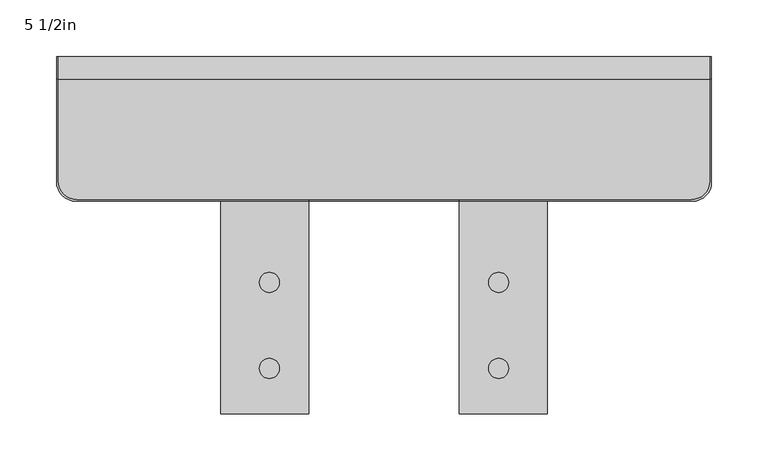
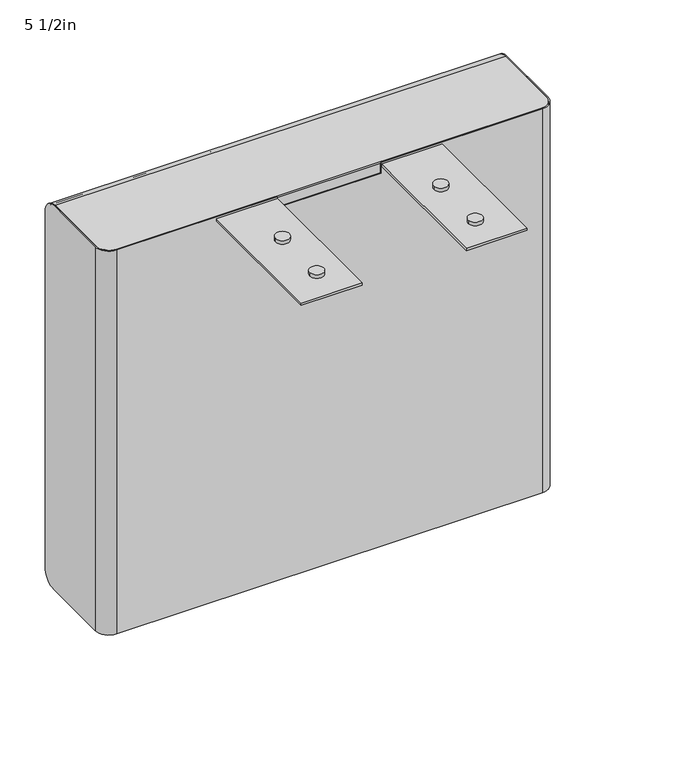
"""IFC4 building model written with IfcOpenShell, lengths in millimetres: furniture geometry, Steelcase - Media Scape - CODEC Case : 5 1/2in."""

import ifcopenshell
import ifcopenshell.guid

model = None  # the IFC model being written
_history = None  # IfcOwnerHistory: only IFC2X3 demands one
_inside = {}  # id of a spatial element -> (the spatial element, [elements in it])
_under = {}  # id of a project, library or spatial element -> (it, [spatial elements below it])
_declared = {}  # id of a project -> (the project, [libraries it declares])
_typed = {}  # id of a type object -> (the type object, [elements of that type])
_made_of = {}  # id of a material, layer set ... -> (it, [elements and type objects made of it])


def new_model(schema):
    """Start an empty IFC model of exactly this schema.

    Asked for "IFC4X3", IfcOpenShell would pick the latest addendum, in which some entities
    have other attributes; the version numbers below select the first issue.
    IFC2X3 requires an IfcOwnerHistory on every rooted entity: one is made here for all.
    """
    global model, _history
    if schema == "IFC4X3":
        model = ifcopenshell.file(schema_version=(4, 3, 0, 0))
    else:
        model = ifcopenshell.file(schema=schema)
    _inside.clear()
    _under.clear()
    _declared.clear()
    _typed.clear()
    _made_of.clear()
    _history = None
    if model.schema == "IFC2X3":
        org = make("IfcOrganization", Name="unknown")
        user = make(
            "IfcPersonAndOrganization",
            ThePerson=make("IfcPerson", FamilyName="unknown"),
            TheOrganization=org,
        )
        app = make(
            "IfcApplication",
            ApplicationDeveloper=org,
            Version="unknown",
            ApplicationFullName="unknown",
            ApplicationIdentifier="unknown",
        )
        _history = make(
            "IfcOwnerHistory",
            OwningUser=user,
            OwningApplication=app,
            ChangeAction="ADDED",
            CreationDate=0,
        )
    return model


def make(cls, **values):
    """One entity of the class cls with the attributes given. An attribute that is None is left unset."""
    return model.create_entity(
        cls, **{name: value for name, value in values.items() if value is not None}
    )


def rooted(cls, **values):
    """An entity with a GlobalId (a new one), such as an element, a storey or a relation."""
    return make(cls, GlobalId=ifcopenshell.guid.new(), OwnerHistory=_history, **values)


def si_unit(unit_type, name, prefix=None):
    """IfcSIUnit, for example si_unit("LENGTHUNIT", "METRE", prefix="MILLI")."""
    return make("IfcSIUnit", UnitType=unit_type, Prefix=prefix, Name=name)


def assignment(units):
    """IfcUnitAssignment: the units of a project."""
    return None if units is None else make("IfcUnitAssignment", Units=units)


def point(xyz):
    """IfcCartesianPoint."""
    return None if xyz is None else make("IfcCartesianPoint", Coordinates=xyz)


def direction(xyz):
    """IfcDirection."""
    return None if xyz is None else make("IfcDirection", DirectionRatios=xyz)


def frame(location, z_axis=None, x_axis=None):
    """IfcAxis2Placement3D, a coordinate frame: its origin and axes. An axis left out is left unset."""
    return make(
        "IfcAxis2Placement3D",
        Location=point(location),
        Axis=direction(z_axis),
        RefDirection=direction(x_axis),
    )


def frame_2d(location, x_axis=None):
    """IfcAxis2Placement2D, a coordinate frame in the plane: its origin and x axis."""
    return make(
        "IfcAxis2Placement2D", Location=point(location), RefDirection=direction(x_axis)
    )


def origin():
    """The frame at (0, 0, 0) with its axes left unset."""
    return frame((0.0, 0.0, 0.0))


def place(relative_to, where):
    """IfcLocalPlacement: puts the frame where relative to a parent placement (None: the world)."""
    return make(
        "IfcLocalPlacement", PlacementRelTo=relative_to, RelativePlacement=where
    )


def context(
    kind, dimensions, precision=None, world=None, true_north=None, identifier=None
):
    """IfcGeometricRepresentationContext, for example the 3D "Model" context."""
    return make(
        "IfcGeometricRepresentationContext",
        ContextIdentifier=identifier,
        ContextType=kind,
        CoordinateSpaceDimension=dimensions,
        Precision=precision,
        WorldCoordinateSystem=world,
        TrueNorth=true_north,
    )


def project(units=None, contexts=None):
    """IfcProject with its units and contexts."""
    return rooted(
        "IfcProject",
        Name="project",
        RepresentationContexts=contexts,
        UnitsInContext=assignment(units),
    )


def spatial(cls, under=None, at=None, **own):
    """A site, building, storey or space (cls), placed at a placement, below another one or the project."""
    s = rooted(cls, ObjectPlacement=at, **own)
    if under is not None:
        _under.setdefault(under.id(), (under, []))[1].append(s)
    return s


def polyline(points):
    """IfcPolyline through the points."""
    return make("IfcPolyline", Points=[point(p) for p in points])


def circle_curve(where, radius):
    """IfcCircle in the frame where."""
    return make("IfcCircle", Position=where, Radius=radius)


def trimmed(basis, trim1, trim2, sense, master):
    """IfcTrimmedCurve: the piece of a basis curve between two trims."""
    return make(
        "IfcTrimmedCurve",
        BasisCurve=basis,
        Trim1=trim1,
        Trim2=trim2,
        SenseAgreement=sense,
        MasterRepresentation=master,
    )


def segment(curve, same_sense, transition):
    """IfcCompositeCurveSegment."""
    return make(
        "IfcCompositeCurveSegment",
        Transition=transition,
        SameSense=same_sense,
        ParentCurve=curve,
    )


def composite_curve(segments, self_intersect=None):
    """IfcCompositeCurve: segments joined end to end."""
    return make("IfcCompositeCurve", Segments=segments, SelfIntersect=self_intersect)


def outline(outer, holes=None, kind="AREA"):
    """IfcArbitraryClosedProfileDef: a profile drawn as a closed curve; with holes, ...WithVoids."""
    if holes is None:
        return make("IfcArbitraryClosedProfileDef", ProfileType=kind, OuterCurve=outer)
    return make(
        "IfcArbitraryProfileDefWithVoids",
        ProfileType=kind,
        OuterCurve=outer,
        InnerCurves=holes,
    )


def extrude(swept, where, along, depth):
    """IfcExtrudedAreaSolid: the profile swept, set in the frame where, extruded along a direction by depth."""
    return make(
        "IfcExtrudedAreaSolid",
        SweptArea=swept,
        Position=where,
        ExtrudedDirection=direction(along),
        Depth=depth,
    )


def shape(context_of_items, identifier, shape_type, items):
    """IfcShapeRepresentation: the items that make up one representation, for example the "Body"."""
    return make(
        "IfcShapeRepresentation",
        ContextOfItems=context_of_items,
        RepresentationIdentifier=identifier,
        RepresentationType=shape_type,
        Items=items,
    )


def source(mapping_origin, context_of_items, identifier, shape_type, items):
    """IfcRepresentationMap: a shape defined once, which mapped items show again and again."""
    return make(
        "IfcRepresentationMap",
        MappingOrigin=mapping_origin,
        MappedRepresentation=shape(context_of_items, identifier, shape_type, items),
    )


def transform(
    local_origin,
    x_axis=None,
    y_axis=None,
    z_axis=None,
    scale=None,
    scale2=None,
    scale3=None,
    uniform=True,
):
    """IfcCartesianTransformationOperator3D, or its non-uniform kind. x_axis, y_axis, z_axis: its Axis1, 2, 3."""
    if uniform:
        return make(
            "IfcCartesianTransformationOperator3D",
            Axis1=direction(x_axis),
            Axis2=direction(y_axis),
            LocalOrigin=point(local_origin),
            Scale=scale,
            Axis3=direction(z_axis),
        )
    return make(
        "IfcCartesianTransformationOperator3DnonUniform",
        Axis1=direction(x_axis),
        Axis2=direction(y_axis),
        LocalOrigin=point(local_origin),
        Scale=scale,
        Axis3=direction(z_axis),
        Scale2=scale2,
        Scale3=scale3,
    )


def mapped(mapping_source, mapping_target):
    """IfcMappedItem: shows the shape of a source again, moved by a transform."""
    return make(
        "IfcMappedItem", MappingSource=mapping_source, MappingTarget=mapping_target
    )


def made_of(thing, what):
    """Note that an element or type object is made of a material, layer set ...; save() writes the relation."""
    if what is not None:
        _made_of.setdefault(what.id(), (what, []))[1].append(thing)
    return thing


def element(
    cls,
    number,
    at=None,
    inside=None,
    cuts=None,
    type_object=None,
    material=None,
    context=None,
    identifier="Body",
    shape_type=None,
    held_by="IfcProductDefinitionShape",
    body=None,
    shapes=None,
    **own,
):
    """One element of the class cls, such as IfcWall. Its Tag is "e" and its number.

    at: its placement. inside: the storey or other place that contains it. cuts: it is an
    opening in that element (IfcRelVoidsElement). A single representation is given by context,
    identifier, shape_type and body (its items); several are given by shapes. held_by: the class
    of the entity that holds the representations. save() writes the other relations.
    """
    e = rooted(cls, Tag="e%d" % number, ObjectPlacement=at, **own)
    if body is not None:
        shapes = [shape(context, identifier, shape_type, body)]
    if shapes is not None:
        e.Representation = make(held_by, Representations=shapes)
    if inside is not None:
        _inside.setdefault(inside.id(), (inside, []))[1].append(e)
    if cuts is not None:
        rooted(
            "IfcRelVoidsElement", RelatingBuildingElement=cuts, RelatedOpeningElement=e
        )
    if type_object is not None:
        _typed.setdefault(type_object.id(), (type_object, []))[1].append(e)
    return made_of(e, material)


def aggregate(whole, parts):
    """IfcRelAggregates: a whole, such as a stair, and the parts it consists of."""
    return rooted("IfcRelAggregates", RelatingObject=whole, RelatedObjects=parts)


def save(model, path):
    """Write the relations noted so far, then the file.

    IfcRelAggregates (storeys below a building ...), IfcRelContainedInSpatialStructure (elements
    in a storey), IfcRelDefinesByType, IfcRelAssociatesMaterial and IfcRelDeclares: one each for
    every whole, place, type object, material and project.
    """
    for whole, parts in _under.values():
        aggregate(whole, parts)
    for where, things in _inside.values():
        rooted(
            "IfcRelContainedInSpatialStructure",
            RelatedElements=things,
            RelatingStructure=where,
        )
    for kind, things in _typed.values():
        rooted("IfcRelDefinesByType", RelatedObjects=things, RelatingType=kind)
    for what, things in _made_of.values():
        rooted("IfcRelAssociatesMaterial", RelatedObjects=things, RelatingMaterial=what)
    for by, libraries in _declared.values():
        rooted("IfcRelDeclares", RelatingContext=by, RelatedDefinitions=libraries)
    model.write(path)


def plane_surface(at):
    """IfcPlane: the flat surface through the origin of the frame at, square to its z axis."""
    return make("IfcPlane", Position=at)


def cylinder_surface(at, radius):
    """IfcCylindricalSurface: all points at the distance radius from the z axis of the frame at."""
    return make("IfcCylindricalSurface", Position=at, Radius=radius)


def revolved_surface(curve, axis_point, axis_direction):
    """IfcSurfaceOfRevolution: the curve turned about the line through axis_point along axis_direction."""
    return make(
        "IfcSurfaceOfRevolution",
        SweptCurve=make("IfcArbitraryOpenProfileDef", ProfileType="CURVE", Curve=curve),
        AxisPosition=make("IfcAxis1Placement", Location=point(axis_point), Axis=direction(axis_direction)),
    )


def advanced_brep(points, edges, surfaces, faces):
    """IfcAdvancedBrep: a solid bounded by faces that lie on surfaces and meet in shared edges.

    An edge is (start, end): straight between two places in points (the first is 0);
    or (start, end, curve); or (start, end, curve, False) where it runs against its curve.
    A face is (place in surfaces, loops), or (place, loops, False) where it looks against
    its surface's normal. A loop lists edges by number (the first is 1), with a minus sign
    where the edge is run from its end to its start. The first loop is the outer one.
    """
    corners = [point(p) for p in points]
    vertices = [make("IfcVertexPoint", VertexGeometry=c) for c in corners]
    made = []
    for start, end, *more in edges:
        made.append(
            make(
                "IfcEdgeCurve",
                EdgeStart=vertices[start],
                EdgeEnd=vertices[end],
                EdgeGeometry=more[0] if more else make("IfcPolyline", Points=[corners[start], corners[end]]),
                SameSense=more[1] if len(more) > 1 else True,
            )
        )
    hull = []
    for where, loops, *sense in faces:
        bounds = []
        for j, loop in enumerate(loops):
            ring = [make("IfcOrientedEdge", EdgeElement=made[abs(k) - 1], Orientation=k > 0) for k in loop]
            bounds.append(
                make(
                    "IfcFaceOuterBound" if j == 0 else "IfcFaceBound",
                    Bound=make("IfcEdgeLoop", EdgeList=ring),
                    Orientation=True,
                )
            )
        hull.append(make("IfcAdvancedFace", Bounds=bounds, FaceSurface=surfaces[where], SameSense=sense[0] if sense else True))
    return make("IfcAdvancedBrep", Outer=make("IfcClosedShell", CfsFaces=hull))


def furniture_5_1_2in_ac73947f(model_context):
    return source(origin(), model_context, "Body", "SolidModel", [
        advanced_brep(
        [(287.9725, 203.3768772, 149.4028), (287.9725, 222.4268772, 168.4528), (287.9725, 222.4268772, 648.4617981), (287.9725, 202.5638753, 668.3248), (287.9725, 112.1078418, 668.3248), (287.9725, 112.1078418, 666.0388), (287.9725, 203.2001796, 666.0388), (287.9725, 220.1408772, 649.0981023), (287.9725, 220.1408772, 168.3752942), (287.9725, 203.454383, 151.6888), (287.9725, 112.1078418, 151.6888), (287.9725, 112.1078418, 149.4028), (-287.9725, 203.454383, 151.6888), (-287.9725, 220.1408772, 168.3752942), (-287.9725, 220.1408772, 649.0981023), (-287.9725, 203.2001796, 666.0388), (-287.9725, 112.2258952, 666.0388), (-287.9725, 112.2258952, 668.3248), (-287.9725, 202.5638753, 668.3248), (-287.9725, 222.4268772, 648.4617981), (-287.9725, 222.4268772, 168.4528), (-287.9725, 203.3768772, 149.4028), (-287.9725, 112.2258952, 149.4028), (-287.9725, 112.2258952, 151.6888), (-271.605282, 95.8586771, 151.6888), (271.7233353, 95.8586771, 151.6888), (-271.605282, 95.8586771, 149.4028), (271.7233353, 95.8586771, 149.4028), (-271.605282, 95.8586771, 668.3248), (271.7233353, 95.8586771, 668.3248), (-271.605282, 95.8586771, 666.0388), (271.7233353, 95.8586771, 666.0388)],
        [
            (0, 1, circle_curve(frame((287.9725, 203.3768772, 168.4528), z_axis=(1.0, 0.0, 0.0), x_axis=(0.0, -1.0, 0.0)), 19.05)),
            (1, 2),
            (2, 3, circle_curve(frame((287.9725, 202.5638753, 648.4617981), z_axis=(1.0, 0.0, 0.0), x_axis=(0.0, -1.0, 0.0)), 19.8630019)),
            (3, 4),
            (4, 5),
            (5, 6),
            (6, 7, circle_curve(frame((287.9725, 203.2001796, 649.0981023), z_axis=(-1.0, 0.0, 0.0), x_axis=(0.0, -1.0, 0.0)), 16.9406977)),
            (7, 8),
            (8, 9, circle_curve(frame((287.9725, 203.454383, 168.3752942), z_axis=(-1.0, 0.0, 0.0), x_axis=(0.0, -1.0, 0.0)), 16.6864942)),
            (9, 10),
            (10, 11),
            (11, 0),
            (12, 13, circle_curve(frame((-287.9725, 203.454383, 168.3752942), z_axis=(1.0, 0.0, 0.0), x_axis=(0.0, -1.0, 0.0)), 16.6864942)),
            (13, 14),
            (14, 15, circle_curve(frame((-287.9725, 203.2001796, 649.0981023), z_axis=(1.0, 0.0, 0.0), x_axis=(0.0, -1.0, 0.0)), 16.9406977)),
            (15, 16),
            (16, 17),
            (17, 18),
            (18, 19, circle_curve(frame((-287.9725, 202.5638753, 648.4617981), z_axis=(-1.0, 0.0, 0.0), x_axis=(0.0, -1.0, 0.0)), 19.8630019)),
            (19, 20),
            (20, 21, circle_curve(frame((-287.9725, 203.3768772, 168.4528), z_axis=(-1.0, 0.0, 0.0), x_axis=(0.0, -1.0, 0.0)), 19.05)),
            (21, 22),
            (22, 23),
            (23, 12),
            (9, 12),
            (23, 24, circle_curve(frame((-271.605282, 112.2258952, 151.6888), z_axis=(0.0, 0.0, 1.0), x_axis=(1.0, 0.0, 0.0)), 16.367218)),
            (24, 25),
            (25, 10, circle_curve(frame((271.7233353, 112.1078418, 151.6888), z_axis=(0.0, 0.0, 1.0), x_axis=(1.0, 0.0, 0.0)), 16.2491647)),
            (24, 26),
            (26, 27),
            (27, 25),
            (21, 0),
            (11, 27, circle_curve(frame((271.7233353, 112.1078418, 149.4028), z_axis=(0.0, 0.0, -1.0), x_axis=(1.0, 0.0, 0.0)), 16.2491647)),
            (26, 22, circle_curve(frame((-271.605282, 112.2258952, 149.4028), z_axis=(0.0, 0.0, -1.0), x_axis=(1.0, 0.0, 0.0)), 16.367218)),
            (20, 1),
            (19, 2),
            (18, 3),
            (17, 28, circle_curve(frame((-271.605282, 112.2258952, 668.3248), z_axis=(0.0, 0.0, 1.0), x_axis=(1.0, 0.0, 0.0)), 16.367218)),
            (28, 29),
            (29, 4, circle_curve(frame((271.7233353, 112.1078418, 668.3248), z_axis=(0.0, 0.0, 1.0), x_axis=(1.0, 0.0, 0.0)), 16.2491647)),
            (28, 30),
            (30, 31),
            (31, 29),
            (15, 6),
            (5, 31, circle_curve(frame((271.7233353, 112.1078418, 666.0388), z_axis=(0.0, 0.0, -1.0), x_axis=(1.0, 0.0, 0.0)), 16.2491647)),
            (30, 16, circle_curve(frame((-271.605282, 112.2258952, 666.0388), z_axis=(0.0, 0.0, -1.0), x_axis=(1.0, 0.0, 0.0)), 16.367218)),
            (14, 7),
            (13, 8),
        ],
        [
            plane_surface(frame((287.9725, 146.6586771, 151.6888), z_axis=(1.0, 0.0, 0.0), x_axis=(0.0, -1.0, 0.0))),
            plane_surface(frame((-287.9725, 146.6586771, 151.6888), z_axis=(-1.0, 0.0, 0.0), x_axis=(0.0, 1.0, 0.0))),
            plane_surface(frame((287.9725, 203.454383, 151.6888), z_axis=(0.0, 0.0, 1.0), x_axis=(-1.0, 0.0, 0.0))),
            plane_surface(frame((287.9725, 95.8586771, 151.6888), z_axis=(0.0, -1.0, 0.0), x_axis=(-1.0, 0.0, 0.0))),
            plane_surface(frame((287.9725, 95.8586771, 149.4028), z_axis=(0.0, 0.0, -1.0), x_axis=(-1.0, 0.0, 0.0))),
            cylinder_surface(frame((-287.9725, 203.3768772, 168.4528), z_axis=(1.0, 0.0, 0.0), x_axis=(0.0, -1.0, 0.0)), 19.05),
            plane_surface(frame((287.9725, 222.4268772, 168.4528), z_axis=(0.0, 1.0, 0.0), x_axis=(-1.0, 0.0, 0.0))),
            cylinder_surface(frame((-287.9725, 202.5638753, 648.4617981), z_axis=(1.0, 0.0, 0.0), x_axis=(0.0, -1.0, 0.0)), 19.8630019),
            plane_surface(frame((287.9725, 202.5638753, 668.3248), z_axis=(0.0, 0.0, 1.0), x_axis=(-1.0, 0.0, 0.0))),
            plane_surface(frame((287.9725, 95.8586771, 668.3248), z_axis=(0.0, -1.0, 0.0), x_axis=(-1.0, 0.0, 0.0))),
            plane_surface(frame((287.9725, 95.8586771, 666.0388), z_axis=(0.0, 0.0, -1.0), x_axis=(-1.0, 0.0, 0.0))),
            revolved_surface(polyline([(-287.9725, 186.25948190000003, 649.0981023), (287.9725, 186.25948190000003, 649.0981023)]), (-287.9725, 203.2001796, 649.0981023), (-1.0, 0.0, 0.0)),
            plane_surface(frame((287.9725, 220.1408772, 649.0981023), z_axis=(0.0, -1.0, 0.0), x_axis=(-1.0, 0.0, 0.0))),
            revolved_surface(polyline([(-287.9725, 186.7678888, 168.3752942), (287.9725, 186.7678888, 168.3752942)]), (-287.9725, 203.454383, 168.3752942), (-1.0, 0.0, 0.0)),
            cylinder_surface(frame((271.7233353, 112.1078418, 126.5654858), z_axis=(0.0, 0.0, -1.0), x_axis=(1.0, 0.0, 0.0)), 16.2491647),
            cylinder_surface(frame((-271.605282, 112.2258952, 126.5654858), z_axis=(0.0, 0.0, -1.0), x_axis=(1.0, 0.0, 0.0)), 16.367218),
        ],
        [
            (0, [[1, 2, 3, 4, 5, 6, 7, 8, 9, 10, 11, 12]]),
            (1, [[13, 14, 15, 16, 17, 18, 19, 20, 21, 22, 23, 24]]),
            (2, [[25, -24, 26, 27, 28, -10]]),
            (3, [[-27, 29, 30, 31]]),
            (4, [[32, -12, 33, -30, 34, -22]]),
            (5, [[-1, -32, -21, 35]]),
            (6, [[-2, -35, -20, 36]]),
            (7, [[-3, -36, -19, 37]]),
            (8, [[-37, -18, 38, 39, 40, -4]]),
            (9, [[-39, 41, 42, 43]]),
            (10, [[44, -6, 45, -42, 46, -16]]),
            (11, [[-7, -44, -15, 47]]),
            (12, [[-8, -47, -14, 48]]),
            (13, [[-9, -48, -13, -25]]),
            (14, [[-11, -28, -31, -33]]),
            (14, [[-5, -40, -43, -45]]),
            (15, [[-17, -46, -41, -38]]),
            (15, [[-23, -34, -29, -26]]),
        ],
    ),
        advanced_brep(
        [(-289.4965, 111.7295872, 668.3248), (-272.1015899, 94.3346771, 668.3248), (-66.6877, 94.3346771, 668.3248), (-66.6877, 95.8586771, 668.3248), (-271.605282, 95.8586771, 668.3248), (-287.9725, 112.2258952, 668.3248), (-287.9725, 202.5638753, 668.3248), (-289.4965, 202.5638753, 668.3248), (272.7502806, 94.3346771, 668.3248), (289.4965, 111.0808965, 668.3248), (289.4965, 202.5638753, 668.3248), (287.9725, 202.5638753, 668.3248), (287.9725, 112.1078418, 668.3248), (271.7233353, 95.8586771, 668.3248), (66.6877, 95.8586771, 668.3248), (66.6877, 94.3346771, 668.3248), (-287.9725, 112.2258952, 149.4028), (-271.605282, 95.8586771, 149.4028), (271.7233353, 95.8586771, 149.4028), (287.9725, 112.1078418, 149.4028), (287.9725, 203.3768772, 149.4028), (289.4965, 203.3768772, 149.4028), (289.4965, 111.0808965, 149.4028), (272.7502806, 94.3346771, 149.4028), (-272.1015899, 94.3346771, 149.4028), (-289.4965, 111.7295872, 149.4028), (-289.4965, 203.3768772, 149.4028), (-287.9725, 203.3768772, 149.4028), (-287.9725, 222.4268772, 168.4528), (-287.9725, 222.4268771, 648.4617981), (-289.4965, 222.4268771, 168.4528), (-289.4965, 222.4268771, 648.4617981), (66.6877, 94.3346771, 653.3388273), (-66.6877, 94.3346771, 653.3388273), (289.4965, 222.4268772, 168.4528), (289.4965, 222.4268772, 648.4617981), (287.9725, 222.4268772, 168.4528), (287.9725, 222.4268772, 648.4617981), (-66.6877, 95.8586771, 653.3388273), (66.6877, 95.8586771, 653.3388273)],
        [
            (0, 1, circle_curve(frame((-272.1015899, 111.7295872, 668.3248), z_axis=(0.0, 0.0, 1.0), x_axis=(1.0, 0.0, 0.0)), 17.3949101)),
            (1, 2),
            (2, 3),
            (3, 4),
            (4, 5, circle_curve(frame((-271.605282, 112.2258952, 668.3248), z_axis=(0.0, 0.0, -1.0), x_axis=(1.0, 0.0, 0.0)), 16.367218)),
            (5, 6),
            (6, 7),
            (7, 0),
            (8, 9, circle_curve(frame((272.7502806, 111.0808965, 668.3248), z_axis=(0.0, 0.0, 1.0), x_axis=(1.0, 0.0, 0.0)), 16.7462194)),
            (9, 10),
            (10, 11),
            (11, 12),
            (12, 13, circle_curve(frame((271.7233353, 112.1078418, 668.3248), z_axis=(0.0, 0.0, -1.0), x_axis=(1.0, 0.0, 0.0)), 16.2491647)),
            (13, 14),
            (14, 15),
            (15, 8),
            (16, 17, circle_curve(frame((-271.605282, 112.2258952, 149.4028), z_axis=(0.0, 0.0, 1.0), x_axis=(1.0, 0.0, 0.0)), 16.367218)),
            (17, 18),
            (18, 19, circle_curve(frame((271.7233353, 112.1078418, 149.4028), z_axis=(0.0, 0.0, 1.0), x_axis=(1.0, 0.0, 0.0)), 16.2491647)),
            (19, 20),
            (20, 21),
            (21, 22),
            (22, 23, circle_curve(frame((272.7502806, 111.0808965, 149.4028), z_axis=(0.0, 0.0, -1.0), x_axis=(1.0, 0.0, 0.0)), 16.7462194)),
            (23, 24),
            (24, 25, circle_curve(frame((-272.1015899, 111.7295872, 149.4028), z_axis=(0.0, 0.0, -1.0), x_axis=(1.0, 0.0, 0.0)), 17.3949101)),
            (25, 26),
            (26, 27),
            (27, 16),
            (5, 16),
            (27, 28, circle_curve(frame((-287.9725, 203.3768772, 168.4528), z_axis=(1.0, 0.0, 0.0), x_axis=(0.0, -1.0, 0.0)), 19.05)),
            (28, 29),
            (29, 6, circle_curve(frame((-287.9725, 202.5638753, 648.4617981), z_axis=(1.0, 0.0, 0.0), x_axis=(0.0, -1.0, 0.0)), 19.8630019)),
            (28, 30),
            (30, 31),
            (31, 29),
            (25, 0),
            (7, 31, circle_curve(frame((-289.4965, 202.5638753, 648.4617981), z_axis=(-1.0, 0.0, 0.0), x_axis=(0.0, -1.0, 0.0)), 19.8630019)),
            (30, 26, circle_curve(frame((-289.4965, 203.3768772, 168.4528), z_axis=(-1.0, 0.0, 0.0), x_axis=(0.0, -1.0, 0.0)), 19.05)),
            (24, 1),
            (23, 8),
            (15, 32),
            (32, 33),
            (33, 2),
            (22, 9),
            (21, 34, circle_curve(frame((289.4965, 203.3768772, 168.4528), z_axis=(1.0, 0.0, 0.0), x_axis=(0.0, -1.0, 0.0)), 19.05)),
            (34, 35),
            (35, 10, circle_curve(frame((289.4965, 202.5638753, 648.4617981), z_axis=(1.0, 0.0, 0.0), x_axis=(0.0, -1.0, 0.0)), 19.8630019)),
            (34, 36),
            (36, 37),
            (37, 35),
            (19, 12),
            (11, 37, circle_curve(frame((287.9725, 202.5638753, 648.4617981), z_axis=(-1.0, 0.0, 0.0), x_axis=(0.0, -1.0, 0.0)), 19.8630019)),
            (36, 20, circle_curve(frame((287.9725, 203.3768772, 168.4528), z_axis=(-1.0, 0.0, 0.0), x_axis=(0.0, -1.0, 0.0)), 19.05)),
            (18, 13),
            (17, 4),
            (3, 38),
            (38, 39),
            (39, 14),
            (39, 32),
            (38, 33),
        ],
        [
            plane_surface(frame((-287.9725, 222.4268772, 668.3248), z_axis=(0.0, 0.0, 1.0), x_axis=(0.0, 1.0, 0.0))),
            plane_surface(frame((-287.9725, 222.4268772, 149.4028), z_axis=(0.0, 0.0, -1.0), x_axis=(0.0, -1.0, 0.0))),
            plane_surface(frame((-287.9725, 112.2258952, 668.3248), z_axis=(1.0, 0.0, 0.0), x_axis=(0.0, 0.0, -1.0))),
            plane_surface(frame((-287.9725, 222.4268771, 668.3248), z_axis=(0.0, 1.0, 0.0), x_axis=(0.0, 0.0, -1.0))),
            plane_surface(frame((-289.4965, 222.4268771, 668.3248), z_axis=(-1.0, 0.0, 0.0), x_axis=(0.0, 0.0, -1.0))),
            cylinder_surface(frame((-272.1015899, 111.7295872, 149.4028), z_axis=(0.0, 0.0, 1.0), x_axis=(1.0, 0.0, 0.0)), 17.3949101),
            plane_surface(frame((-272.1015899, 94.3346771, 668.3248), z_axis=(0.0, -1.0, 0.0), x_axis=(0.0, 0.0, -1.0))),
            cylinder_surface(frame((272.7502806, 111.0808965, 149.4028), z_axis=(0.0, 0.0, 1.0), x_axis=(1.0, 0.0, 0.0)), 16.7462194),
            plane_surface(frame((289.4965, 111.0808965, 668.3248), z_axis=(1.0, 0.0, 0.0), x_axis=(0.0, 0.0, -1.0))),
            plane_surface(frame((289.4965, 222.4268772, 668.3248), z_axis=(0.0, 1.0, 0.0), x_axis=(0.0, 0.0, -1.0))),
            plane_surface(frame((287.9725, 222.4268772, 668.3248), z_axis=(-1.0, 0.0, 0.0), x_axis=(0.0, 0.0, -1.0))),
            revolved_surface(polyline([(287.97249999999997, 112.1078418, 149.4028), (287.97249999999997, 112.1078418, 668.3248000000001)]), (271.7233353, 112.1078418, 149.4028), (0.0, 0.0, -1.0)),
            plane_surface(frame((271.7233353, 95.8586771, 668.3248), z_axis=(0.0, 1.0, 0.0), x_axis=(0.0, 0.0, -1.0))),
            revolved_surface(polyline([(-255.23806399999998, 112.2258952, 149.4028), (-255.23806399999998, 112.2258952, 668.3248000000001)]), (-271.605282, 112.2258952, 149.4028), (0.0, 0.0, -1.0)),
            cylinder_surface(frame((-301.5442454, 202.5638753, 648.4617981), z_axis=(-1.0, 0.0, 0.0), x_axis=(0.0, -1.0, 0.0)), 19.8630019),
            cylinder_surface(frame((-301.5442454, 203.3768772, 168.4528), z_axis=(-1.0, 0.0, 0.0), x_axis=(0.0, -1.0, 0.0)), 19.05),
            plane_surface(frame((66.6877, 319.0306772, 679.4349791), z_axis=(-1.0, 0.0, 0.0), x_axis=(0.0, -1.0, 0.0))),
            plane_surface(frame((66.6877, 319.0306772, 653.3388273), z_axis=(0.0, 0.0, 1.0), x_axis=(0.0, -1.0, 0.0))),
            plane_surface(frame((-66.6877, 319.0306772, 653.3388273), z_axis=(1.0, 0.0, 0.0), x_axis=(0.0, -1.0, 0.0))),
        ],
        [
            (0, [[1, 2, 3, 4, 5, 6, 7, 8]]),
            (0, [[9, 10, 11, 12, 13, 14, 15, 16]]),
            (1, [[17, 18, 19, 20, 21, 22, 23, 24, 25, 26, 27, 28]]),
            (2, [[29, -28, 30, 31, 32, -6]]),
            (3, [[-31, 33, 34, 35]]),
            (4, [[36, -8, 37, -34, 38, -26]]),
            (5, [[-1, -36, -25, 39]]),
            (6, [[-24, 40, -16, 41, 42, 43, -2, -39]]),
            (7, [[-9, -40, -23, 44]]),
            (8, [[-44, -22, 45, 46, 47, -10]]),
            (9, [[-46, 48, 49, 50]]),
            (10, [[51, -12, 52, -49, 53, -20]]),
            (11, [[-13, -51, -19, 54]]),
            (12, [[-18, 55, -4, 56, 57, 58, -14, -54]]),
            (13, [[-5, -55, -17, -29]]),
            (14, [[-7, -32, -35, -37]]),
            (14, [[-11, -47, -50, -52]]),
            (15, [[-21, -53, -48, -45]]),
            (15, [[-27, -38, -33, -30]]),
            (16, [[59, -41, -15, -58]]),
            (17, [[-59, -57, 60, -42]]),
            (18, [[-60, -56, -3, -43]]),
        ],
    ),
        extrude(outline(composite_curve([segment(trimmed(circle_curve(frame_2d((203.2001796, 649.0981023)), 16.9406977), [point((219.6015054, 653.3388273))], [point((219.9157427, 651.8507713))], False, "CARTESIAN"), True, "CONTINUOUS"), segment(polyline([(219.9157427, 651.8507713), (146.6586771, 651.8507713), (146.6586771, 653.3388273), (219.6015054, 653.3388273)]), True, "CONTINUOUS")], self_intersect=False)), frame((-66.6877, 0.0, 0.0), z_axis=(1.0, 0.0, 0.0), x_axis=(0.0, 1.0, 0.0)), (0.0, 0.0, 1.0), 133.3754),
        extrude(outline(composite_curve([segment(trimmed(circle_curve(frame_2d((-101.3638584, 22.5611162)), 8.89), [point((-110.2538584, 22.5611162))], [point((-92.4738584, 22.5611162))], False, "CARTESIAN"), True, "CONTINUOUS"), segment(trimmed(circle_curve(frame_2d((-101.3638584, 22.5611162)), 8.89), [point((-92.4738584, 22.5611162))], [point((-110.2538584, 22.5611162))], False, "CARTESIAN"), True, "CONTINUOUS")], self_intersect=False)), frame((0.0, 0.0, 666.0388), z_axis=(0.0, 0.0, 1.0), x_axis=(1.0, 0.0, 0.0)), (0.0, 0.0, 1.0), 4.7752),
        extrude(outline(composite_curve([segment(trimmed(circle_curve(frame_2d((-101.3638584, -53.6388838)), 8.89), [point((-110.2538584, -53.6388838))], [point((-92.4738584, -53.6388838))], False, "CARTESIAN"), True, "CONTINUOUS"), segment(trimmed(circle_curve(frame_2d((-101.3638584, -53.6388838)), 8.89), [point((-92.4738584, -53.6388838))], [point((-110.2538584, -53.6388838))], False, "CARTESIAN"), True, "CONTINUOUS")], self_intersect=False)), frame((0.0, 0.0, 666.0388), z_axis=(0.0, 0.0, 1.0), x_axis=(1.0, 0.0, 0.0)), (0.0, 0.0, 1.0), 4.7752),
        extrude(outline(composite_curve([segment(trimmed(circle_curve(frame_2d((101.3638584, 22.5611162)), 8.89), [point((110.2538584, 22.5611162))], [point((92.4738584, 22.5611162))], False, "CARTESIAN"), True, "CONTINUOUS"), segment(trimmed(circle_curve(frame_2d((101.3638584, 22.5611162)), 8.89), [point((92.4738584, 22.5611162))], [point((110.2538584, 22.5611162))], False, "CARTESIAN"), True, "CONTINUOUS")], self_intersect=False)), frame((0.0, 0.0, 666.0388), z_axis=(0.0, 0.0, 1.0), x_axis=(1.0, 0.0, 0.0)), (0.0, 0.0, 1.0), 4.7752),
        extrude(outline(composite_curve([segment(trimmed(circle_curve(frame_2d((101.3638584, -53.6388838)), 8.89), [point((110.2538584, -53.6388838))], [point((92.4738584, -53.6388838))], False, "CARTESIAN"), True, "CONTINUOUS"), segment(trimmed(circle_curve(frame_2d((101.3638584, -53.6388838)), 8.89), [point((92.4738584, -53.6388838))], [point((110.2538584, -53.6388838))], False, "CARTESIAN"), True, "CONTINUOUS")], self_intersect=False)), frame((0.0, 0.0, 666.0388), z_axis=(0.0, 0.0, 1.0), x_axis=(1.0, 0.0, 0.0)), (0.0, 0.0, 1.0), 4.7752),
        extrude(outline(polyline([(-144.462503, -94.006329), (-144.462503, 94.3346771), (-66.6877, 94.3346771), (-66.6877, -94.006329), (-144.462503, -94.006329)])), frame((0.0, 0.0, 662.9907818), z_axis=(0.0, 0.0, 1.0), x_axis=(1.0, 0.0, 0.0)), (0.0, 0.0, 1.0), 3.0480182),
        extrude(outline(polyline([(66.6877, 94.3346771), (144.462503, 94.3346771), (144.462503, -94.006329), (66.6877, -94.006329), (66.6877, 94.3346771)])), frame((0.0, 0.0, 662.9907818), z_axis=(0.0, 0.0, 1.0), x_axis=(1.0, 0.0, 0.0)), (0.0, 0.0, 1.0), 3.0480182),
    ])


if __name__ == "__main__":
    model = new_model("IFC4")
    model_context = context("Model", 3, world=origin())
    ifc_project = project(units=[si_unit("LENGTHUNIT", "METRE", prefix="MILLI")], contexts=[model_context])
    site = spatial("IfcSite", under=ifc_project)
    building = spatial("IfcBuilding", under=site)
    placement = place(None, origin())
    furniture_5_1_2in_shape = furniture_5_1_2in_ac73947f(model_context)
    element("IfcFurniture", 1, ObjectType="Steelcase - Media Scape - CODEC Case : 5 1/2in", at=placement, inside=building, context=model_context, shape_type="MappedRepresentation", body=[
        mapped(furniture_5_1_2in_shape, transform((0.0, 0.0, 0.0), x_axis=(1.0, 0.0, 0.0), y_axis=(0.0, 1.0, 0.0), z_axis=(0.0, 0.0, 1.0))),
    ])
    save(model, "model.ifc")
